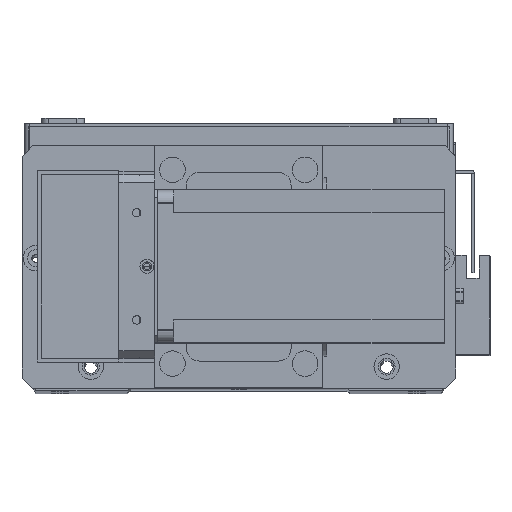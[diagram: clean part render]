
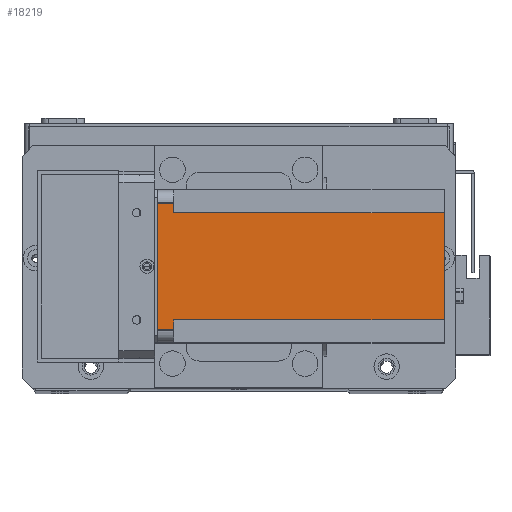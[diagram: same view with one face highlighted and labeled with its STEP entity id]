
A CAD part, top view. The second image highlights one B-rep face of the part: STEP entity #18219.
In plain terms, the highlighted planar face has unit normal (0, 0, 1) as drawn and (-1, 0, 0) by its records, which use the part's own axes.
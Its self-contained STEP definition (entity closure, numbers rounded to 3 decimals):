
#769 = LINE ( 'NONE', #9458, #7206 ) ;
#1334 = DIRECTION ( 'NONE',  ( 0., -1., 0. ) ) ;
#1696 = CARTESIAN_POINT ( 'NONE',  ( 0., 9., -112.5 ) ) ;
#1722 = DIRECTION ( 'NONE',  ( 0., 1., 0. ) ) ;
#1789 = VERTEX_POINT ( 'NONE', #1696 ) ;
#1962 = DIRECTION ( 'NONE',  ( 0., 0., 1. ) ) ;
#2822 = ORIENTED_EDGE ( 'NONE', *, *, #5923, .T. ) ;
#4804 = VERTEX_POINT ( 'NONE', #28873 ) ;
#5122 = LINE ( 'NONE', #10948, #30014 ) ;
#5315 = ORIENTED_EDGE ( 'NONE', *, *, #28980, .F. ) ;
#5524 = ORIENTED_EDGE ( 'NONE', *, *, #24637, .T. ) ;
#5734 = CARTESIAN_POINT ( 'NONE',  ( 0., 5., 0. ) ) ;
#5923 = EDGE_CURVE ( 'NONE', #24409, #28984, #30587, .T. ) ;
#6921 = VECTOR ( 'NONE', #26842, 1000. ) ;
#7074 = DIRECTION ( 'NONE',  ( 0., -1., 0. ) ) ;
#7206 = VECTOR ( 'NONE', #18916, 1000. ) ;
#7230 = LINE ( 'NONE', #9505, #25671 ) ;
#7522 = ORIENTED_EDGE ( 'NONE', *, *, #14846, .T. ) ;
#8268 = CARTESIAN_POINT ( 'NONE',  ( 0., 0., -112.5 ) ) ;
#8516 = VERTEX_POINT ( 'NONE', #5734 ) ;
#9458 = CARTESIAN_POINT ( 'NONE',  ( 0., 51., -112.5 ) ) ;
#9505 = CARTESIAN_POINT ( 'NONE',  ( 0., 0., -112.5 ) ) ;
#10697 = DIRECTION ( 'NONE',  ( -1., 0., 0. ) ) ;
#10948 = CARTESIAN_POINT ( 'NONE',  ( 0., 0., 0. ) ) ;
#11273 = DIRECTION ( 'NONE',  ( 0., 0., -1. ) ) ;
#11297 = EDGE_LOOP ( 'NONE', ( #26670, #5524, #14965, #2822, #27582, #5315, #7522, #27730 ) ) ;
#11621 = LINE ( 'NONE', #24254, #29260 ) ;
#12700 = VERTEX_POINT ( 'NONE', #13951 ) ;
#13468 = FACE_OUTER_BOUND ( 'NONE', #11297, .T. ) ;
#13951 = CARTESIAN_POINT ( 'NONE',  ( 0., 5., -6.5 ) ) ;
#14291 = CARTESIAN_POINT ( 'NONE',  ( 0., 55., -6.5 ) ) ;
#14805 = DIRECTION ( 'NONE',  ( 0., 1., 0. ) ) ;
#14846 = EDGE_CURVE ( 'NONE', #4804, #1789, #7230, .T. ) ;
#14889 = CARTESIAN_POINT ( 'NONE',  ( 0., 9., -112.5 ) ) ;
#14965 = ORIENTED_EDGE ( 'NONE', *, *, #17707, .F. ) ;
#15044 = VECTOR ( 'NONE', #1722, 1000. ) ;
#15841 = CARTESIAN_POINT ( 'NONE',  ( 0., 9., -6.5 ) ) ;
#17707 = EDGE_CURVE ( 'NONE', #24409, #8516, #5122, .T. ) ;
#18061 = EDGE_CURVE ( 'NONE', #22722, #28984, #11621, .T. ) ;
#18219 = ADVANCED_FACE ( 'NONE', ( #13468 ), #22687, .T. ) ;
#18326 = VERTEX_POINT ( 'NONE', #15841 ) ;
#18403 = CARTESIAN_POINT ( 'NONE',  ( 0., 5., -112.5 ) ) ;
#18916 = DIRECTION ( 'NONE',  ( 0., 0., 1. ) ) ;
#18973 = LINE ( 'NONE', #14889, #6921 ) ;
#22197 = LINE ( 'NONE', #25636, #15044 ) ;
#22687 = PLANE ( 'NONE',  #30636 ) ;
#22722 = VERTEX_POINT ( 'NONE', #25917 ) ;
#23240 = CARTESIAN_POINT ( 'NONE',  ( 0., 55., -112.5 ) ) ;
#24034 = EDGE_CURVE ( 'NONE', #12700, #18326, #22197, .T. ) ;
#24254 = CARTESIAN_POINT ( 'NONE',  ( 0., 60., -6.5 ) ) ;
#24409 = VERTEX_POINT ( 'NONE', #29676 ) ;
#24637 = EDGE_CURVE ( 'NONE', #12700, #8516, #24779, .T. ) ;
#24779 = LINE ( 'NONE', #18403, #30460 ) ;
#25636 = CARTESIAN_POINT ( 'NONE',  ( 0., 0., -6.5 ) ) ;
#25671 = VECTOR ( 'NONE', #7074, 1000. ) ;
#25917 = CARTESIAN_POINT ( 'NONE',  ( 0., 51., -6.5 ) ) ;
#26670 = ORIENTED_EDGE ( 'NONE', *, *, #24034, .F. ) ;
#26842 = DIRECTION ( 'NONE',  ( 0., 0., -1. ) ) ;
#27342 = EDGE_CURVE ( 'NONE', #18326, #1789, #18973, .T. ) ;
#27482 = DIRECTION ( 'NONE',  ( 0., -1., 0. ) ) ;
#27582 = ORIENTED_EDGE ( 'NONE', *, *, #18061, .F. ) ;
#27730 = ORIENTED_EDGE ( 'NONE', *, *, #27342, .F. ) ;
#28873 = CARTESIAN_POINT ( 'NONE',  ( 0., 51., -112.5 ) ) ;
#28980 = EDGE_CURVE ( 'NONE', #4804, #22722, #769, .T. ) ;
#28984 = VERTEX_POINT ( 'NONE', #14291 ) ;
#29260 = VECTOR ( 'NONE', #14805, 1000. ) ;
#29676 = CARTESIAN_POINT ( 'NONE',  ( 0., 55., 0. ) ) ;
#29822 = VECTOR ( 'NONE', #11273, 1000. ) ;
#30014 = VECTOR ( 'NONE', #1334, 1000. ) ;
#30460 = VECTOR ( 'NONE', #1962, 1000. ) ;
#30587 = LINE ( 'NONE', #23240, #29822 ) ;
#30636 = AXIS2_PLACEMENT_3D ( 'NONE', #8268, #10697, #27482 ) ;
